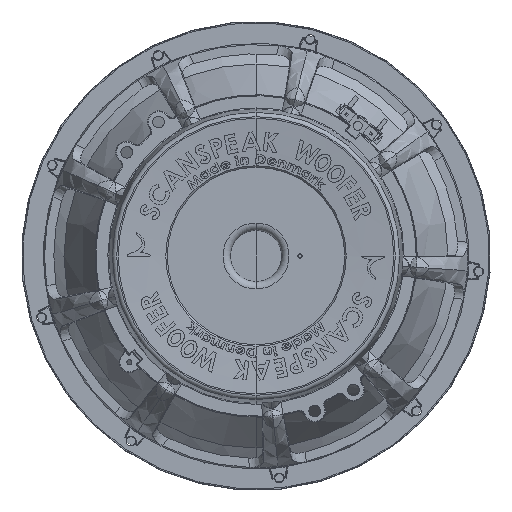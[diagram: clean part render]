
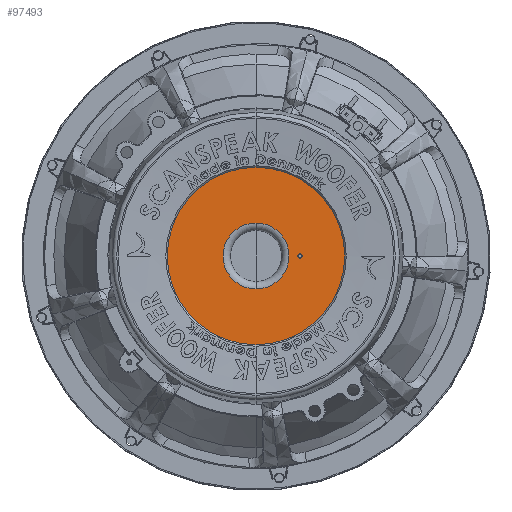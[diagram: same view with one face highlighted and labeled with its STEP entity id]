
A CAD part, front view. The second image highlights one B-rep face of the part: STEP entity #97493.
In plain terms, the highlighted planar face has unit normal (0, -1, 0).
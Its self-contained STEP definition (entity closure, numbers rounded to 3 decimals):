
#2770 = DIRECTION ( 'NONE',  ( 0., 1., 0. ) ) ;
#5106 = CARTESIAN_POINT ( 'NONE',  ( 30., 0., 1.4 ) ) ;
#6404 = DIRECTION ( 'NONE',  ( 0., 1., 0. ) ) ;
#8869 = FACE_OUTER_BOUND ( 'NONE', #80203, .T. ) ;
#9001 = EDGE_CURVE ( 'NONE', #86574, #34215, #70990, .T. ) ;
#9182 = EDGE_CURVE ( 'NONE', #110221, #21162, #75523, .T. ) ;
#9792 = AXIS2_PLACEMENT_3D ( 'NONE', #23209, #44484, #98797 ) ;
#12057 = CIRCLE ( 'NONE', #9792, 22.5 ) ;
#14198 = DIRECTION ( 'NONE',  ( 0., 1., 0. ) ) ;
#14294 = CARTESIAN_POINT ( 'NONE',  ( 0., 0., 60.5 ) ) ;
#14320 = EDGE_CURVE ( 'NONE', #34215, #86574, #12057, .T. ) ;
#16744 = AXIS2_PLACEMENT_3D ( 'NONE', #37026, #70913, #26389 ) ;
#17778 = DIRECTION ( 'NONE',  ( 0., 0., 1. ) ) ;
#19184 = CARTESIAN_POINT ( 'NONE',  ( 0., 0., 0. ) ) ;
#19840 = CIRCLE ( 'NONE', #121369, 60.5 ) ;
#21162 = VERTEX_POINT ( 'NONE', #121631 ) ;
#23209 = CARTESIAN_POINT ( 'NONE',  ( 0., 0., 0. ) ) ;
#23344 = DIRECTION ( 'NONE',  ( 0., 0., 1. ) ) ;
#26389 = DIRECTION ( 'NONE',  ( 0., 0., -1. ) ) ;
#29816 = ORIENTED_EDGE ( 'NONE', *, *, #49266, .T. ) ;
#32993 = CARTESIAN_POINT ( 'NONE',  ( 0., 0., 0. ) ) ;
#33377 = VERTEX_POINT ( 'NONE', #5106 ) ;
#33668 = ORIENTED_EDGE ( 'NONE', *, *, #9182, .F. ) ;
#34215 = VERTEX_POINT ( 'NONE', #139683 ) ;
#37026 = CARTESIAN_POINT ( 'NONE',  ( 0., 0., 0. ) ) ;
#37042 = CARTESIAN_POINT ( 'NONE',  ( 0., 0., -22.5 ) ) ;
#41429 = EDGE_LOOP ( 'NONE', ( #29816, #134449 ) ) ;
#42171 = CARTESIAN_POINT ( 'NONE',  ( 30., 0., 0. ) ) ;
#42871 = DIRECTION ( 'NONE',  ( 0., 1., 0. ) ) ;
#44484 = DIRECTION ( 'NONE',  ( 0., -1., 0. ) ) ;
#47011 = ORIENTED_EDGE ( 'NONE', *, *, #14320, .F. ) ;
#49266 = EDGE_CURVE ( 'NONE', #100021, #33377, #78018, .T. ) ;
#52131 = DIRECTION ( 'NONE',  ( 0., 0., 1. ) ) ;
#53574 = FACE_BOUND ( 'NONE', #137380, .T. ) ;
#53703 = ORIENTED_EDGE ( 'NONE', *, *, #9001, .F. ) ;
#53998 = AXIS2_PLACEMENT_3D ( 'NONE', #32993, #57067, #99315 ) ;
#57067 = DIRECTION ( 'NONE',  ( 0., 1., 0. ) ) ;
#58057 = CARTESIAN_POINT ( 'NONE',  ( 30., 0., -1.4 ) ) ;
#59538 = CARTESIAN_POINT ( 'NONE',  ( 30., 0., 0. ) ) ;
#66584 = AXIS2_PLACEMENT_3D ( 'NONE', #99616, #2770, #23344 ) ;
#70629 = EDGE_CURVE ( 'NONE', #33377, #100021, #73090, .T. ) ;
#70913 = DIRECTION ( 'NONE',  ( 0., -1., 0. ) ) ;
#70990 = CIRCLE ( 'NONE', #16744, 22.5 ) ;
#73090 = CIRCLE ( 'NONE', #95598, 1.4 ) ;
#75523 = CIRCLE ( 'NONE', #66584, 60.5 ) ;
#78018 = CIRCLE ( 'NONE', #121030, 1.4 ) ;
#80203 = EDGE_LOOP ( 'NONE', ( #121920, #33668 ) ) ;
#86574 = VERTEX_POINT ( 'NONE', #37042 ) ;
#95044 = EDGE_CURVE ( 'NONE', #21162, #110221, #19840, .T. ) ;
#95598 = AXIS2_PLACEMENT_3D ( 'NONE', #59538, #14198, #133714 ) ;
#96543 = PLANE ( 'NONE',  #53998 ) ;
#97493 = ADVANCED_FACE ( 'NONE', ( #53574, #105782, #8869 ), #96543, .F. ) ;
#98797 = DIRECTION ( 'NONE',  ( 0., 0., -1. ) ) ;
#99315 = DIRECTION ( 'NONE',  ( 0., 0., 1. ) ) ;
#99616 = CARTESIAN_POINT ( 'NONE',  ( 0., 0., 0. ) ) ;
#100021 = VERTEX_POINT ( 'NONE', #58057 ) ;
#105782 = FACE_BOUND ( 'NONE', #41429, .T. ) ;
#110221 = VERTEX_POINT ( 'NONE', #14294 ) ;
#121030 = AXIS2_PLACEMENT_3D ( 'NONE', #42171, #42871, #52131 ) ;
#121369 = AXIS2_PLACEMENT_3D ( 'NONE', #19184, #6404, #17778 ) ;
#121631 = CARTESIAN_POINT ( 'NONE',  ( 0., 0., -60.5 ) ) ;
#121920 = ORIENTED_EDGE ( 'NONE', *, *, #95044, .F. ) ;
#133714 = DIRECTION ( 'NONE',  ( 0., 0., 1. ) ) ;
#134449 = ORIENTED_EDGE ( 'NONE', *, *, #70629, .T. ) ;
#137380 = EDGE_LOOP ( 'NONE', ( #53703, #47011 ) ) ;
#139683 = CARTESIAN_POINT ( 'NONE',  ( 0., 0., 22.5 ) ) ;
